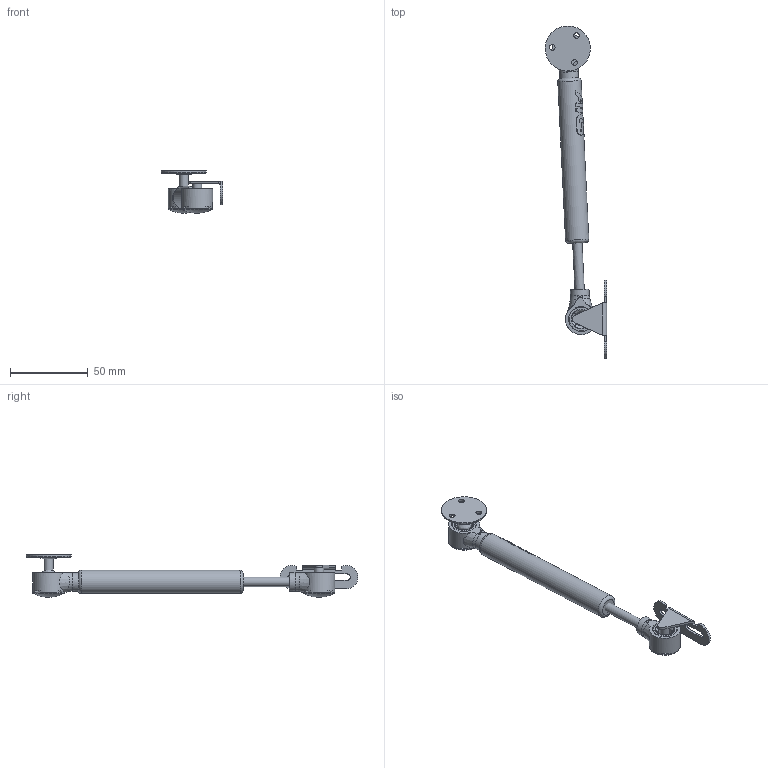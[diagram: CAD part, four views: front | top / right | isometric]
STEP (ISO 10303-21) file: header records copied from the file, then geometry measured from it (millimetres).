
FILE_DESCRIPTION(/* description */ ('Akc'),/* implementation_level */ '2;1');
FILE_NAME(/* name */ 'C:\Users\dmitruk\Documents\WORK\Подъемники\Подъемники\Подъемник газовый AKS PLUS слож.stp',/* time_stamp */ '2022-08-04T10:33:06+03:00',/* author */ ('dmitruk'),/* organization */ (''),/* preprocessor_version */ 'ST-DEVELOPER v16.5',/* originating_system */ 'Autodesk Inventor 2017',/* authorisation */ '');
FILE_SCHEMA (('AUTOMOTIVE_DESIGN { 1 0 10303 214 3 1 1 }'));
Length unit declared in the file: millimetre
Products named in the file (7): Подъемник \X2\043304300437043E0432
044B0439\X0\ 246 мм с \X2\043D043E0432044B043C
0438\X0\ креплениями \X2\0441
043B043E0436\X0\; Шток фикс; Крепление \X2\043A043E
0440043F04430441\X0\; Крепление \X2\043F043E
0434044A0435043C043D0438043A\X0\ фикс; Крышка; Шток; Крепление \X2\04440430
044104300434\X0\
Assembly tree (8 placements, depth 2):
  Подъемник \X2\043304300437043E0432
044B0439\X0\ 246 мм с \X2\043D043E0432044B043C
0438\X0\ креплениями \X2\0441
043B043E0436\X0\
    Шток фикс
    Крепление \X2\043A043E
0440043F04430441\X0\
    Крепление \X2\043F043E
0434044A0435043C043D0438043A\X0\ фикс  x2
    Крышка  x2
    Шток
    Крепление \X2\04440430
044104300434\X0\
Bounding box: 39.46 x 213.24 x 27.27 mm (x, y, z)
Volume: 34480.1 mm3; surface area: 21061.9 mm2
Topology: 8 solids, 8 shells, 250 faces, 692 edges, 456 vertices
Faces by surface type: plane 149, cylinder 74, bspline 19, torus 5, cone 2, sphere 1
Full cylindrical faces by diameter (mm): 3.6 x3, 5.8 x1, 6 x2, 8.825 x2, 12 x2, 15 x1, 16 x2, 20 x2, 29 x1
Entity records: 6862 total; most frequent: CARTESIAN_POINT 2273, DIRECTION 916, ORIENTED_EDGE 912, EDGE_CURVE 456, AXIS2_PLACEMENT_3D 338, VERTEX_POINT 311, LINE 240, VECTOR 240
